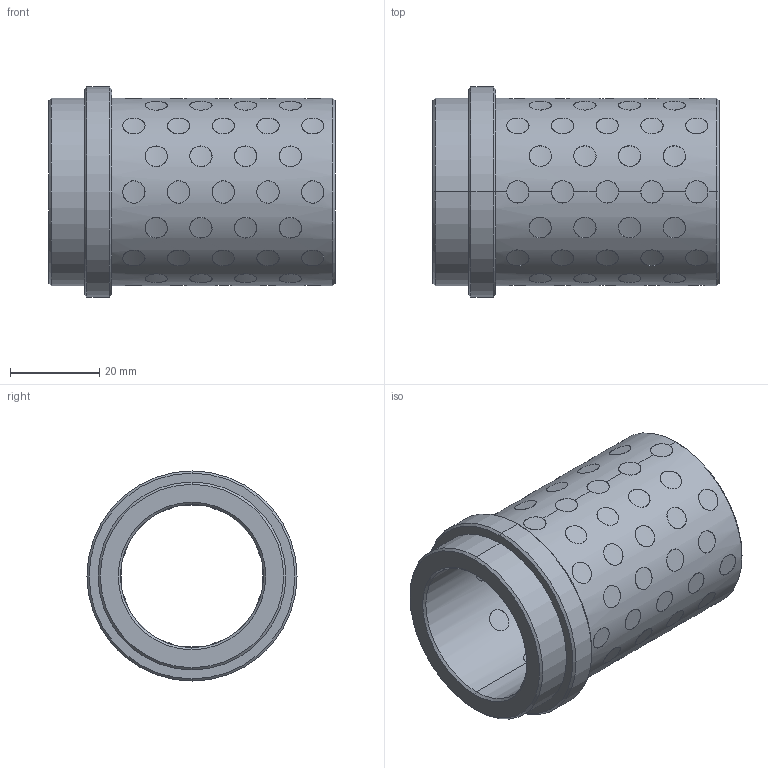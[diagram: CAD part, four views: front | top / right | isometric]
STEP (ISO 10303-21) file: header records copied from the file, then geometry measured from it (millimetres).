
FILE_DESCRIPTION((''),'2;1');
FILE_NAME('G31232056','2017-12-30T',('MANU'),(''),'PRO/ENGINEER BY PARAMETRIC TECHNOLOGY CORPORATION, 2012130','PRO/ENGINEER BY PARAMETRIC TECHNOLOGY CORPORATION, 2012130','');
FILE_SCHEMA(('CONFIG_CONTROL_DESIGN'));
Length unit declared in the file: millimetre
Products named in the file (1): G31232056
Bounding box: 64 x 47 x 47 mm (x, y, z)
Volume: 39057.4 mm3; surface area: 27859.9 mm2
Topology: 73 solids, 73 shells, 456 faces, 972 edges, 644 vertices
Faces by surface type: cylinder 440, cone 12, plane 4
Entity records: 21932 total; most frequent: CARTESIAN_POINT 13022, ORIENTED_EDGE 1944, DIRECTION 1296, EDGE_CURVE 972, VERTEX_POINT 644, B_SPLINE_CURVE_WITH_KNOTS 616, EDGE_LOOP 584, AXIS2_PLACEMENT_3D 484
